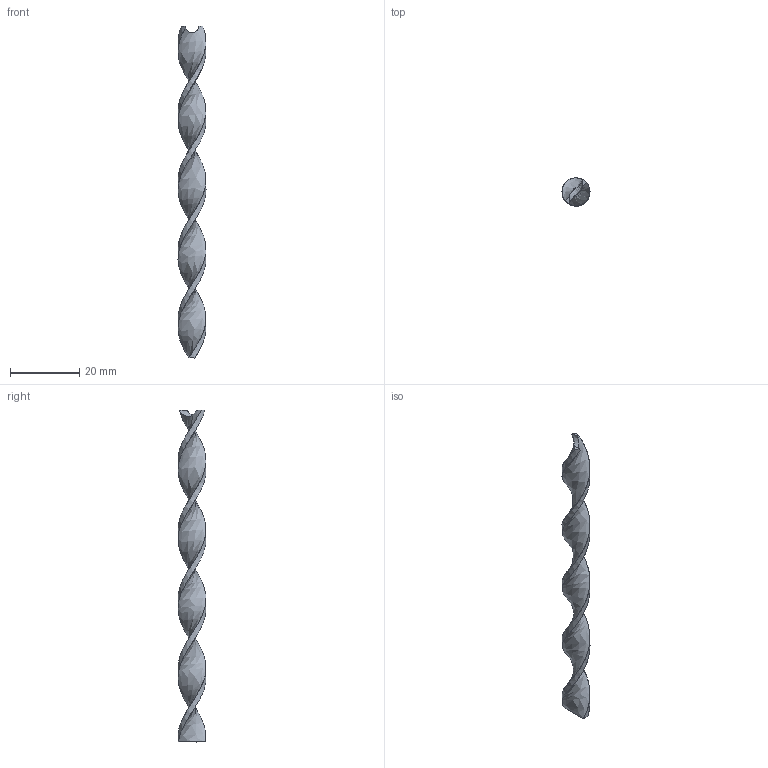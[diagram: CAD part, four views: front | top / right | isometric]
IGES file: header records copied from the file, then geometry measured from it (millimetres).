
Global section: file name: E:\UnigraphicsGraphicData\MISUMI_MOLD-PARTS\NX\3d_wrcbn8-96_00636_r00.igs; native system: NX V5.0; preprocessor: UGS NX IGES V5.0; author: MISUMI; date: 20101115.183711; units: millimetre
Bounding box: 8.1 x 8.1 x 96.02 mm (x, y, z)
Surface area: 1963.4 mm2 (no closed solid volume)
Topology: 0 solids, 0 shells, 8 faces, 44 edges, 44 vertices
Faces by surface type: bspline 8
